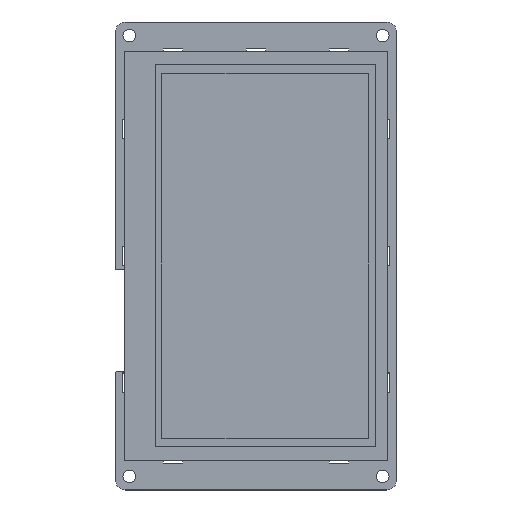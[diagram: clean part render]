
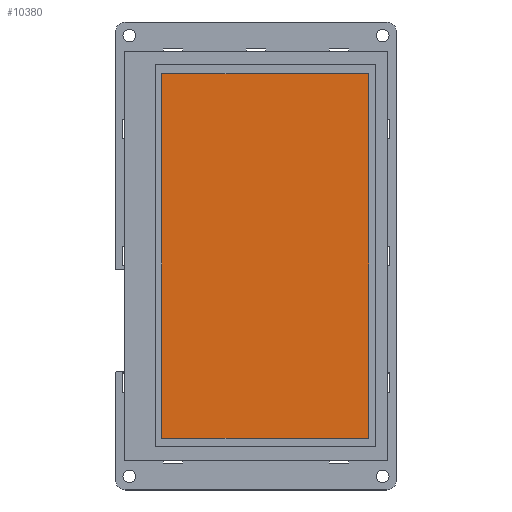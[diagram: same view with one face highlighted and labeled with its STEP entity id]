
A CAD part, top view. The second image highlights one B-rep face of the part: STEP entity #10380.
In plain terms, the highlighted planar face has unit normal (0, 0, 1).
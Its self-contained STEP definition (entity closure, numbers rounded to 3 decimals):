
#3150=DIRECTION('',(0.,1.,0.));
#3151=VECTOR('',#3150,95.04);
#3152=CARTESIAN_POINT('',(29.312,-47.525,6.05));
#3153=LINE('',#3152,#3151);
#3158=DIRECTION('',(1.,0.,0.));
#3159=VECTOR('',#3158,53.86);
#3160=CARTESIAN_POINT('',(-24.548,-47.525,6.05));
#3161=LINE('',#3160,#3159);
#3166=DIRECTION('',(0.,-1.,0.));
#3167=VECTOR('',#3166,95.04);
#3168=CARTESIAN_POINT('',(-24.548,47.515,6.05));
#3169=LINE('',#3168,#3167);
#3174=DIRECTION('',(-1.,0.,0.));
#3175=VECTOR('',#3174,53.86);
#3176=CARTESIAN_POINT('',(29.312,47.515,6.05));
#3177=LINE('',#3176,#3175);
#4166=CARTESIAN_POINT('',(29.312,-47.525,6.05));
#4167=VERTEX_POINT('',#4166);
#4168=CARTESIAN_POINT('',(29.312,47.515,6.05));
#4169=VERTEX_POINT('',#4168);
#4170=CARTESIAN_POINT('',(-24.548,-47.525,6.05));
#4171=VERTEX_POINT('',#4170);
#4172=CARTESIAN_POINT('',(-24.548,47.515,6.05));
#4173=VERTEX_POINT('',#4172);
#10369=CARTESIAN_POINT('',(2.382,-0.005,6.05));
#10370=DIRECTION('',(0.,0.,1.));
#10371=DIRECTION('',(0.,-1.,0.));
#10372=AXIS2_PLACEMENT_3D('',#10369,#10370,#10371);
#10373=PLANE('',#10372);
#10374=ORIENTED_EDGE('',*,*,#10321,.F.);
#10375=ORIENTED_EDGE('',*,*,#10336,.F.);
#10376=ORIENTED_EDGE('',*,*,#10350,.F.);
#10377=ORIENTED_EDGE('',*,*,#10363,.F.);
#10378=EDGE_LOOP('',(#10374,#10375,#10376,#10377));
#10379=FACE_OUTER_BOUND('',#10378,.F.);
#10321=EDGE_CURVE('',#4167,#4169,#3153,.T.);
#10336=EDGE_CURVE('',#4171,#4167,#3161,.T.);
#10350=EDGE_CURVE('',#4173,#4171,#3169,.T.);
#10363=EDGE_CURVE('',#4169,#4173,#3177,.T.);
#10380=ADVANCED_FACE('',(#10379),#10373,.T.);
